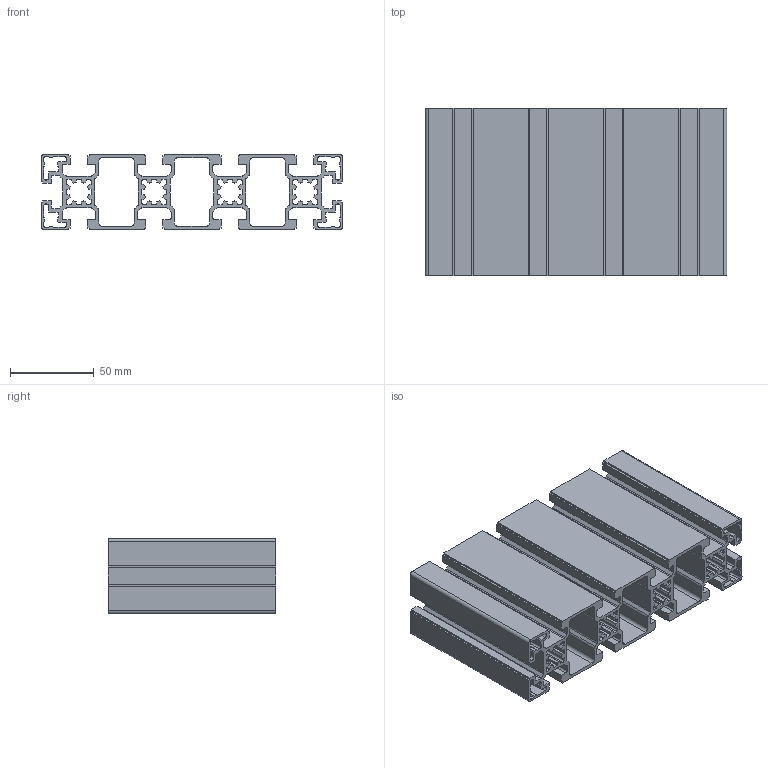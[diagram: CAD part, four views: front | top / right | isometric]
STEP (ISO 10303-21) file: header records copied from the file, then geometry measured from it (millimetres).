
FILE_DESCRIPTION(/* description */ ('Unknown'),/* implementation_level */ '2;1');
FILE_NAME(/* name */ 'AST04518010',/* time_stamp */ '2018-10-16T17:49:18+01:00',/* author */ ('Unknown'),/* organization */ ('Unknown'),/* preprocessor_version */ 'ST-DEVELOPER v16.7',/* originating_system */ 'DEX',/* authorisation */ $);
FILE_SCHEMA (('AUTOMOTIVE_DESIGN {1 0 10303 214 3 1 1}'));
Length unit declared in the file: millimetre
Products named in the file (1): AST04518010
Bounding box: 180 x 100 x 45 mm (x, y, z)
Volume: 214131.5 mm3; surface area: 183566.1 mm2
Topology: 1 solids, 1 shells, 573 faces, 1713 edges, 1142 vertices
Faces by surface type: plane 409, cylinder 164
Entity records: 19269 total; most frequent: CARTESIAN_POINT 3429, ORIENTED_EDGE 3426, DIRECTION 3189, EDGE_CURVE 1713, LINE 1385, VECTOR 1385, VERTEX_POINT 1142, AXIS2_PLACEMENT_3D 902
